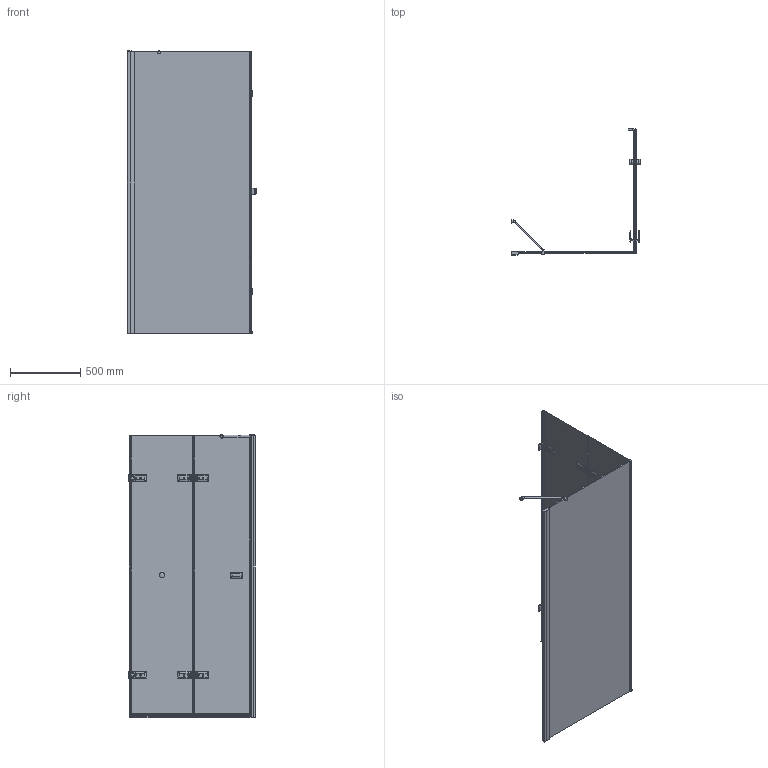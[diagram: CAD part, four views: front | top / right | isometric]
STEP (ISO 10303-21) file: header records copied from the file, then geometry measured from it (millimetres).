
FILE_DESCRIPTION(/* description */ (''),/* implementation_level */ '2;1');
FILE_NAME(/* name */ 'E:\Работа\Сергей\Душевые кабинки\! Работа\TREND SQUARE GK-863AP\TREND SQUARE GK-863AP правая модель\TREND SQUARE GK-863AP ПРАВАЯ-3D.stp',/* time_stamp */ '2017-08-16T18:13:14+03:00',/* author */ ('PC'),/* organization */ (''),/* preprocessor_version */ 'ST-DEVELOPER v15.2',/* originating_system */ 'Autodesk Inventor 2014',/* authorisation */ '');
FILE_SCHEMA (('AUTOMOTIVE_DESIGN { 1 0 10303 214 3 1 1 }'));
Products named in the file (1): TREND SQUARE GK-863AP ПРАВАЯ-
3D
Bounding box: 917.24 x 894.8 x 2009.49 mm (x, y, z)
Volume: 27330830.1 mm3; surface area: 7646304.8 mm2
Topology: 4 solids, 4 shells, 1789 faces, 4902 edges, 3060 vertices
Faces by surface type: plane 1084, cylinder 473, bspline 158, torus 37, cone 22, sphere 15
Full cylindrical faces by diameter (mm): 5 x2, 6 x4, 9 x8, 12 x2, 13 x4, 15 x1, 20 x2, 26 x1, 30 x2, 38 x4
Entity records: 74294 total; most frequent: CARTESIAN_POINT 27767, ORIENTED_EDGE 9546, DIRECTION 9048, EDGE_CURVE 4773, LINE 3116, VECTOR 3116, VERTEX_POINT 3040, AXIS2_PLACEMENT_3D 2966
